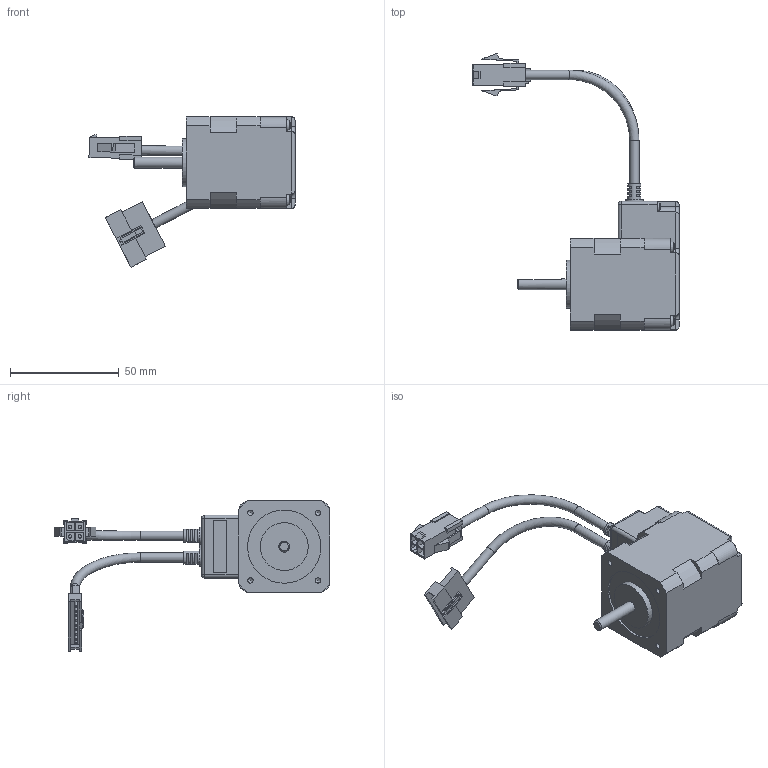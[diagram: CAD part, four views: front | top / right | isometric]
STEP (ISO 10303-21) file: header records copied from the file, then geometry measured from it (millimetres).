
FILE_DESCRIPTION(/* description */ (''),/* implementation_level */ '2;1');
FILE_NAME(/* name */ '\\EMN0D5F01\rp_inventor\RP Mechanical Design\Wiley\Updated Models\eCLM-P171A.stp',/* time_stamp */ '2016-10-27T15:03:46-07:00',/* author */ ('JDB'),/* organization */ ('Parker Hannifin Corp'),/* preprocessor_version */ 'ST-DEVELOPER v15.2',/* originating_system */ 'Autodesk Inventor 2014',/* authorisation */ '');
FILE_SCHEMA (('CONFIG_CONTROL_DESIGN'));
Length unit declared in the file: inch
Products named in the file (1): eCLM-P171A_sw
Bounding box: 94.54 x 126.61 x 68.94 mm (x, y, z)
Volume: 74341.5 mm3; surface area: 30578.1 mm2
Topology: 3 solids, 3 shells, 661 faces, 1718 edges, 1099 vertices
Faces by surface type: plane 456, cylinder 129, cone 50, torus 12, sphere 8, bspline 6
Full cylindrical faces by diameter (mm): 1 x9, 1.5 x4, 1.6 x4, 2.5 x4, 3 x4, 3.4 x4, 4.3 x4, 5 x2, 5.5 x4, 6 x8, 8 x1, 22 x1, 33.6 x1
Entity records: 19628 total; most frequent: CARTESIAN_POINT 3841, DIRECTION 3327, ORIENTED_EDGE 3160, EDGE_CURVE 1578, AXIS2_PLACEMENT_3D 1164, VERTEX_POINT 1047, LINE 999, VECTOR 999
